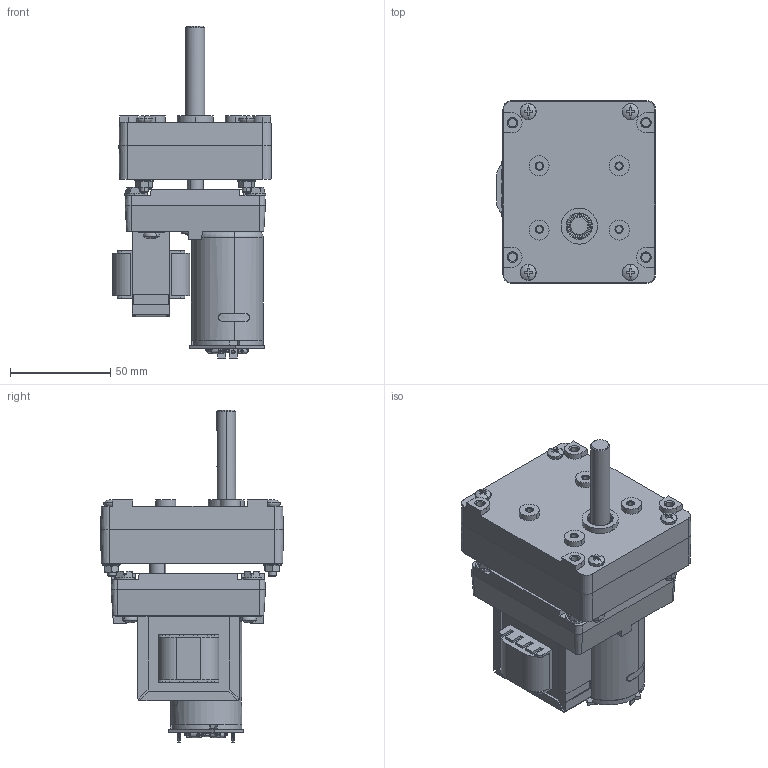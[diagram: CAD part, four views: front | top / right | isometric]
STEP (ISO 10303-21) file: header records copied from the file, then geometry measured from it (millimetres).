
FILE_DESCRIPTION (( 'STEP AP203' ), '1' );
FILE_NAME ('CJ-013-MRD 710-20-TR.STEP', '2018-11-09T11:19:15', ( '' ), ( '' ), 'SwSTEP 2.0', 'SolidWorks 2018', '' );
FILE_SCHEMA (( 'CONFIG_CONTROL_DESIGN' ));
Length unit declared in the file: millimetre
Products named in the file (2): CJ-013-MRD 710-20-TR
Bounding box: 79.27 x 91.04 x 165.45 mm (x, y, z)
Surface area: 93930.5 mm2 (no closed solid volume)
Topology: 0 solids, 104 shells, 1021 faces, 4508 edges, 3566 vertices
Faces by surface type: plane 658, cylinder 196, cone 107, torus 56, bspline 4
Entity records: 49929 total; most frequent: CARTESIAN_POINT 13942, DIRECTION 7152, ORIENTED_EDGE 6487, EDGE_CURVE 4506, VERTEX_POINT 3562, LINE 2608, VECTOR 2608, AXIS2_PLACEMENT_3D 2272
